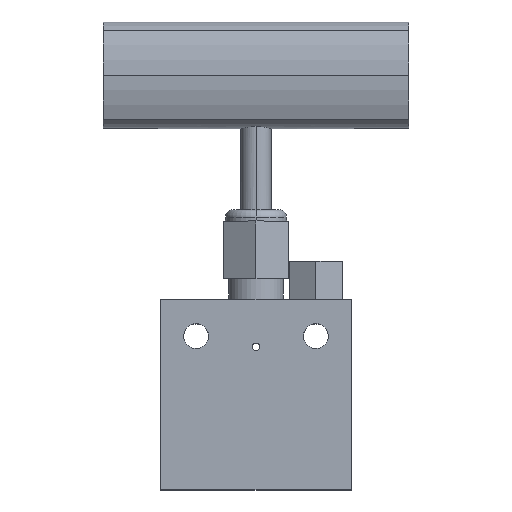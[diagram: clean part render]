
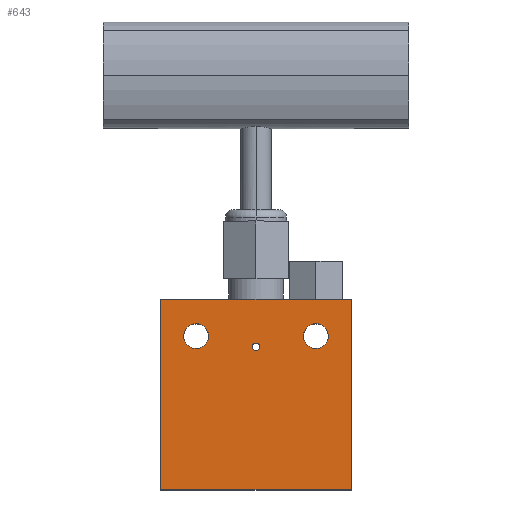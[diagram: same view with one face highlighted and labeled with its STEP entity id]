
A CAD part, top view. The second image highlights one B-rep face of the part: STEP entity #643.
In plain terms, the highlighted planar face has unit normal (0, 0, 1).
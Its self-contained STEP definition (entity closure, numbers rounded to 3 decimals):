
#6 = CARTESIAN_POINT ( 'NONE',  ( 25., 25., 10. ) ) ;
#12 = AXIS2_PLACEMENT_3D ( 'NONE', #168, #1397, #725 ) ;
#54 = LINE ( 'NONE', #282, #1444 ) ;
#72 = DIRECTION ( 'NONE',  ( 1., 0., 0. ) ) ;
#99 = VERTEX_POINT ( 'NONE', #520 ) ;
#168 = CARTESIAN_POINT ( 'NONE',  ( -15.7, 15.3, 10. ) ) ;
#174 = VERTEX_POINT ( 'NONE', #951 ) ;
#189 = ORIENTED_EDGE ( 'NONE', *, *, #414, .F. ) ;
#197 = CARTESIAN_POINT ( 'NONE',  ( 15.7, 15.3, 10. ) ) ;
#209 = AXIS2_PLACEMENT_3D ( 'NONE', #1109, #416, #454 ) ;
#211 = CARTESIAN_POINT ( 'NONE',  ( 0., 0., 10. ) ) ;
#224 = DIRECTION ( 'NONE',  ( 1., 0., 0. ) ) ;
#229 = DIRECTION ( 'NONE',  ( 1., 0., 0. ) ) ;
#244 = VERTEX_POINT ( 'NONE', #737 ) ;
#248 = CIRCLE ( 'NONE', #1649, 1. ) ;
#251 = CARTESIAN_POINT ( 'NONE',  ( 0., 12.5, 10. ) ) ;
#253 = VERTEX_POINT ( 'NONE', #6 ) ;
#282 = CARTESIAN_POINT ( 'NONE',  ( -25., -25., 10. ) ) ;
#287 = CIRCLE ( 'NONE', #209, 1. ) ;
#302 = VERTEX_POINT ( 'NONE', #1291 ) ;
#304 = DIRECTION ( 'NONE',  ( 0., 1., 0. ) ) ;
#305 = DIRECTION ( 'NONE',  ( 0., -1., 0. ) ) ;
#308 = ORIENTED_EDGE ( 'NONE', *, *, #1192, .T. ) ;
#327 = LINE ( 'NONE', #868, #622 ) ;
#343 = EDGE_CURVE ( 'NONE', #99, #174, #54, .T. ) ;
#355 = CIRCLE ( 'NONE', #1069, 3.25 ) ;
#379 = CARTESIAN_POINT ( 'NONE',  ( 25., -25., 10. ) ) ;
#383 = AXIS2_PLACEMENT_3D ( 'NONE', #1718, #1618, #224 ) ;
#414 = EDGE_CURVE ( 'NONE', #244, #302, #287, .T. ) ;
#416 = DIRECTION ( 'NONE',  ( 0., 0., 1. ) ) ;
#450 = CARTESIAN_POINT ( 'NONE',  ( 25., 25., 10. ) ) ;
#454 = DIRECTION ( 'NONE',  ( 1., 0., 0. ) ) ;
#467 = ORIENTED_EDGE ( 'NONE', *, *, #644, .F. ) ;
#482 = EDGE_LOOP ( 'NONE', ( #1178, #308, #612, #1001 ) ) ;
#491 = VECTOR ( 'NONE', #589, 1000. ) ;
#498 = EDGE_CURVE ( 'NONE', #1550, #1335, #355, .T. ) ;
#520 = CARTESIAN_POINT ( 'NONE',  ( -25., 25., 10. ) ) ;
#535 = VERTEX_POINT ( 'NONE', #1017 ) ;
#589 = DIRECTION ( 'NONE',  ( -1., 0., 0. ) ) ;
#612 = ORIENTED_EDGE ( 'NONE', *, *, #1634, .T. ) ;
#622 = VECTOR ( 'NONE', #304, 1000. ) ;
#625 = EDGE_LOOP ( 'NONE', ( #797, #189 ) ) ;
#633 = VECTOR ( 'NONE', #721, 1000. ) ;
#643 = ADVANCED_FACE ( 'NONE', ( #1034, #1440, #1574, #1180 ), #897, .T. ) ;
#644 = EDGE_CURVE ( 'NONE', #535, #1767, #928, .T. ) ;
#657 = DIRECTION ( 'NONE',  ( 1., 0., 0. ) ) ;
#659 = AXIS2_PLACEMENT_3D ( 'NONE', #197, #1466, #657 ) ;
#683 = CIRCLE ( 'NONE', #659, 3.25 ) ;
#685 = DIRECTION ( 'NONE',  ( 0., 0., 1. ) ) ;
#721 = DIRECTION ( 'NONE',  ( 1., 0., 0. ) ) ;
#725 = DIRECTION ( 'NONE',  ( 1., 0., 0. ) ) ;
#737 = CARTESIAN_POINT ( 'NONE',  ( 1., 12.5, 10. ) ) ;
#795 = EDGE_CURVE ( 'NONE', #253, #99, #1002, .T. ) ;
#797 = ORIENTED_EDGE ( 'NONE', *, *, #1736, .F. ) ;
#820 = EDGE_LOOP ( 'NONE', ( #1447, #1597 ) ) ;
#826 = EDGE_LOOP ( 'NONE', ( #1755, #467 ) ) ;
#843 = LINE ( 'NONE', #1277, #633 ) ;
#868 = CARTESIAN_POINT ( 'NONE',  ( 25., -25., 10. ) ) ;
#897 = PLANE ( 'NONE',  #1465 ) ;
#928 = CIRCLE ( 'NONE', #383, 3.25 ) ;
#930 = CARTESIAN_POINT ( 'NONE',  ( -18.95, 15.3, 10. ) ) ;
#951 = CARTESIAN_POINT ( 'NONE',  ( -25., -25., 10. ) ) ;
#1001 = ORIENTED_EDGE ( 'NONE', *, *, #795, .T. ) ;
#1002 = LINE ( 'NONE', #450, #491 ) ;
#1017 = CARTESIAN_POINT ( 'NONE',  ( 18.95, 15.3, 10. ) ) ;
#1034 = FACE_BOUND ( 'NONE', #820, .T. ) ;
#1069 = AXIS2_PLACEMENT_3D ( 'NONE', #1369, #685, #1237 ) ;
#1109 = CARTESIAN_POINT ( 'NONE',  ( 0., 12.5, 10. ) ) ;
#1152 = CARTESIAN_POINT ( 'NONE',  ( -12.45, 15.3, 10. ) ) ;
#1178 = ORIENTED_EDGE ( 'NONE', *, *, #343, .T. ) ;
#1180 = FACE_BOUND ( 'NONE', #625, .T. ) ;
#1192 = EDGE_CURVE ( 'NONE', #174, #1279, #843, .T. ) ;
#1237 = DIRECTION ( 'NONE',  ( 1., 0., 0. ) ) ;
#1277 = CARTESIAN_POINT ( 'NONE',  ( 25., -25., 10. ) ) ;
#1279 = VERTEX_POINT ( 'NONE', #379 ) ;
#1291 = CARTESIAN_POINT ( 'NONE',  ( -1., 12.5, 10. ) ) ;
#1311 = DIRECTION ( 'NONE',  ( 0., 0., 1. ) ) ;
#1335 = VERTEX_POINT ( 'NONE', #930 ) ;
#1340 = CIRCLE ( 'NONE', #12, 3.25 ) ;
#1369 = CARTESIAN_POINT ( 'NONE',  ( -15.7, 15.3, 10. ) ) ;
#1397 = DIRECTION ( 'NONE',  ( 0., 0., 1. ) ) ;
#1440 = FACE_OUTER_BOUND ( 'NONE', #482, .T. ) ;
#1444 = VECTOR ( 'NONE', #305, 1000. ) ;
#1447 = ORIENTED_EDGE ( 'NONE', *, *, #1699, .F. ) ;
#1458 = DIRECTION ( 'NONE',  ( 0., 0., 1. ) ) ;
#1465 = AXIS2_PLACEMENT_3D ( 'NONE', #211, #1311, #72 ) ;
#1466 = DIRECTION ( 'NONE',  ( 0., 0., 1. ) ) ;
#1550 = VERTEX_POINT ( 'NONE', #1152 ) ;
#1574 = FACE_BOUND ( 'NONE', #826, .T. ) ;
#1593 = CARTESIAN_POINT ( 'NONE',  ( 12.45, 15.3, 10. ) ) ;
#1597 = ORIENTED_EDGE ( 'NONE', *, *, #498, .F. ) ;
#1618 = DIRECTION ( 'NONE',  ( 0., 0., 1. ) ) ;
#1634 = EDGE_CURVE ( 'NONE', #1279, #253, #327, .T. ) ;
#1649 = AXIS2_PLACEMENT_3D ( 'NONE', #251, #1458, #229 ) ;
#1699 = EDGE_CURVE ( 'NONE', #1335, #1550, #1340, .T. ) ;
#1718 = CARTESIAN_POINT ( 'NONE',  ( 15.7, 15.3, 10. ) ) ;
#1725 = EDGE_CURVE ( 'NONE', #1767, #535, #683, .T. ) ;
#1736 = EDGE_CURVE ( 'NONE', #302, #244, #248, .T. ) ;
#1755 = ORIENTED_EDGE ( 'NONE', *, *, #1725, .F. ) ;
#1767 = VERTEX_POINT ( 'NONE', #1593 ) ;
